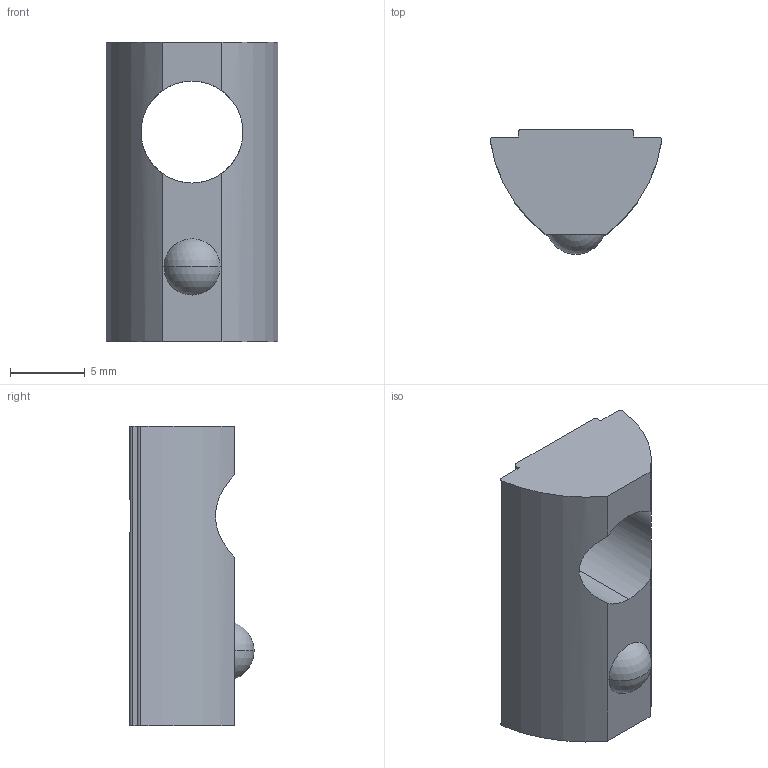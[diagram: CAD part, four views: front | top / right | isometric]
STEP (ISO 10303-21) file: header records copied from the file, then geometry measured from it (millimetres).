
FILE_DESCRIPTION (( 'STEP AP203' ), '1' );
FILE_NAME ('LIMA-LHNR8-83030.STEP', '2018-03-15T12:19:23', ( '' ), ( '' ), 'SwSTEP 2.0', 'SolidWorks 2013', '' );
FILE_SCHEMA (( 'CONFIG_CONTROL_DESIGN' ));
Length unit declared in the file: millimetre
Products named in the file (1): LIMA-LHNR8-83030
Bounding box: 11.44 x 8.3 x 20 mm (x, y, z)
Volume: 996 mm3; surface area: 816.6 mm2
Topology: 1 solids, 1 shells, 23 faces, 65 edges, 43 vertices
Faces by surface type: plane 10, cylinder 9, cone 2, sphere 2
Entity records: 904 total; most frequent: CARTESIAN_POINT 204, DIRECTION 137, ORIENTED_EDGE 130, EDGE_CURVE 65, AXIS2_PLACEMENT_3D 52, VERTEX_POINT 43, VECTOR 33, LINE 33
